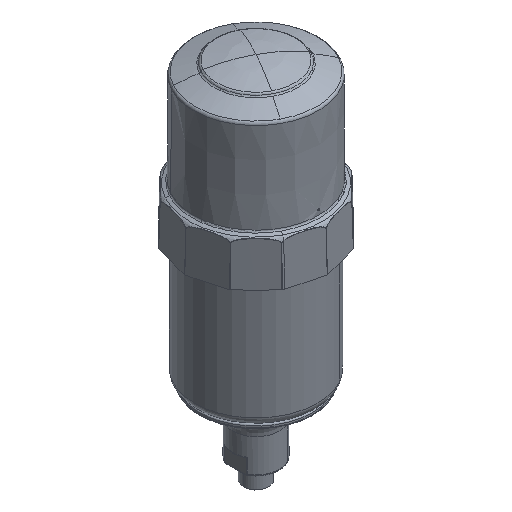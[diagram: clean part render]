
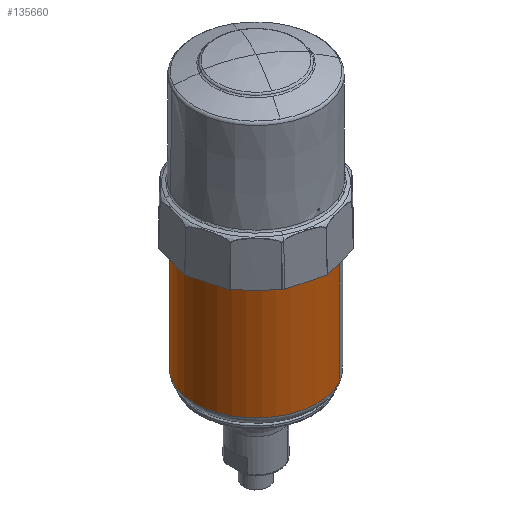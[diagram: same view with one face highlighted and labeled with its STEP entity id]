
A CAD part, isometric view. The second image highlights one B-rep face of the part: STEP entity #135660.
In plain terms, the highlighted cylindrical face has radius 31.525 mm (diameter 63.05 mm), a partial arc.
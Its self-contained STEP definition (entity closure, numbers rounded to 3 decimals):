
#135495=AXIS2_PLACEMENT_3D('Circle Axis2P3D',#135493,#135494,$) ;
#135645=AXIS2_PLACEMENT_3D('Cylinder Axis2P3D',#135642,#135643,#135644) ;
#135649=AXIS2_PLACEMENT_3D('Circle Axis2P3D',#135647,#135648,$) ;
#135466=CARTESIAN_POINT('Vertex',(-15.114,27.666,81.074)) ;
#135473=CARTESIAN_POINT('Vertex',(15.114,-27.666,81.074)) ;
#135493=CARTESIAN_POINT('Axis2P3D Location',(0.,0.,81.074)) ;
#135600=CARTESIAN_POINT('Line Origine',(-15.114,27.666,24.5)) ;
#135604=CARTESIAN_POINT('Vertex',(-15.114,27.666,117.965)) ;
#135606=CARTESIAN_POINT('Vertex',(-15.114,27.666,140.)) ;
#135613=CARTESIAN_POINT('Vertex',(15.114,-27.666,140.)) ;
#135616=CARTESIAN_POINT('Line Origine',(15.114,-27.666,24.5)) ;
#135620=CARTESIAN_POINT('Vertex',(15.114,-27.666,117.965)) ;
#135623=CARTESIAN_POINT('Line Origine',(15.114,-27.666,24.5)) ;
#135628=CARTESIAN_POINT('Line Origine',(-15.114,27.666,24.5)) ;
#135642=CARTESIAN_POINT('Axis2P3D Location',(0.,0.,24.5)) ;
#135647=CARTESIAN_POINT('Axis2P3D Location',(0.,0.,140.)) ;
#135494=DIRECTION('Axis2P3D Direction',(0.,0.,1.)) ;
#135601=DIRECTION('Vector Direction',(0.,0.,1.)) ;
#135617=DIRECTION('Vector Direction',(0.,0.,1.)) ;
#135624=DIRECTION('Vector Direction',(0.,0.,1.)) ;
#135629=DIRECTION('Vector Direction',(0.,0.,1.)) ;
#135643=DIRECTION('Axis2P3D Direction',(0.,0.,1.)) ;
#135644=DIRECTION('Axis2P3D XDirection',(-0.479,0.878,0.)) ;
#135648=DIRECTION('Axis2P3D Direction',(0.,0.,1.)) ;
#135602=VECTOR('Line Direction',#135601,1.) ;
#135618=VECTOR('Line Direction',#135617,1.) ;
#135625=VECTOR('Line Direction',#135624,1.) ;
#135630=VECTOR('Line Direction',#135629,1.) ;
#135653=ORIENTED_EDGE('',*,*,#135622,.T.) ;
#135654=ORIENTED_EDGE('',*,*,#135651,.F.) ;
#135655=ORIENTED_EDGE('',*,*,#135608,.F.) ;
#135656=ORIENTED_EDGE('',*,*,#135632,.F.) ;
#135657=ORIENTED_EDGE('',*,*,#135497,.T.) ;
#135658=ORIENTED_EDGE('',*,*,#135627,.T.) ;
#135660=ADVANCED_FACE('125',(#135659),#135646,.T.) ;
#135496=CIRCLE('generated circle',#135495,31.525) ;
#135650=CIRCLE('generated circle',#135649,31.525) ;
#135646=CYLINDRICAL_SURFACE('generated cylinder',#135645,31.525) ;
#135497=EDGE_CURVE('',#135467,#135474,#135496,.T.) ;
#135608=EDGE_CURVE('',#135605,#135607,#135603,.T.) ;
#135622=EDGE_CURVE('',#135621,#135614,#135619,.T.) ;
#135627=EDGE_CURVE('',#135474,#135621,#135626,.T.) ;
#135632=EDGE_CURVE('',#135467,#135605,#135631,.T.) ;
#135651=EDGE_CURVE('',#135607,#135614,#135650,.T.) ;
#135652=EDGE_LOOP('',(#135653,#135654,#135655,#135656,#135657,#135658)) ;
#135659=FACE_OUTER_BOUND('',#135652,.T.) ;
#135603=LINE('Line',#135600,#135602) ;
#135619=LINE('Line',#135616,#135618) ;
#135626=LINE('Line',#135623,#135625) ;
#135631=LINE('Line',#135628,#135630) ;
#135467=VERTEX_POINT('',#135466) ;
#135474=VERTEX_POINT('',#135473) ;
#135605=VERTEX_POINT('',#135604) ;
#135607=VERTEX_POINT('',#135606) ;
#135614=VERTEX_POINT('',#135613) ;
#135621=VERTEX_POINT('',#135620) ;
